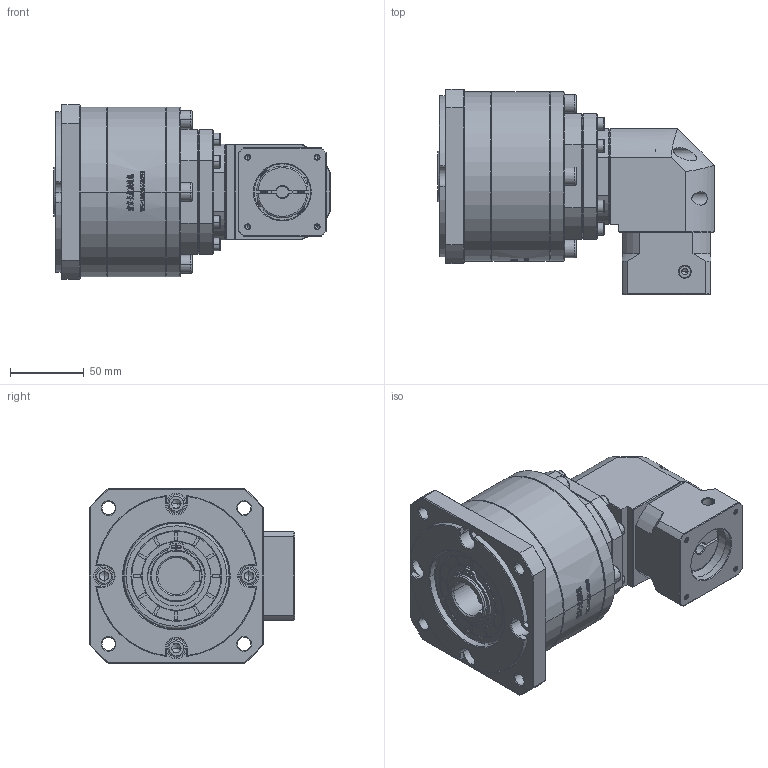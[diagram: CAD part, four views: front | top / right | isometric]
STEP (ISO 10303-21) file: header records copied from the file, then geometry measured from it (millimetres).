
FILE_DESCRIPTION (( 'STEP AP214' ), '1' );
FILE_NAME ('ZFR120A-K25-L3-8-38.1-47.14x47.14-M4.step', '2023-03-08T14:57:31', ( '' ), ( 'Microsoft' ), 'SwSTEP 2.0', 'SolidWorks 2016', '' );
FILE_SCHEMA (( 'AUTOMOTIVE_DESIGN' ));
Length unit declared in the file: millimetre
Products named in the file (1): ZFR120A-K25-L3-8-38.1-47.14x47.14-M4
Bounding box: 187.5 x 139.2 x 118 mm (x, y, z)
Volume: 1427914.4 mm3; surface area: 138128.8 mm2
Topology: 6 solids, 6 shells, 2982 faces, 7887 edges, 5062 vertices
Faces by surface type: plane 1589, bspline 628, cylinder 425, cone 340
Entity records: 154672 total; most frequent: CARTESIAN_POINT 53773, ORIENTED_EDGE 15670, DIRECTION 11609, EDGE_CURVE 7835, VERTEX_POINT 5062, LINE 4941, VECTOR 4941, AXIS2_PLACEMENT_3D 3334
